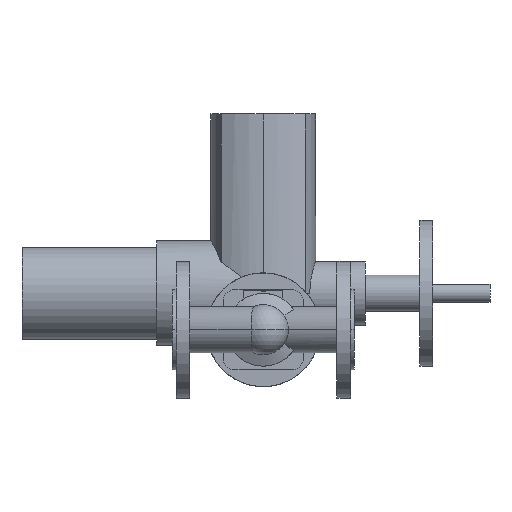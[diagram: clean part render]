
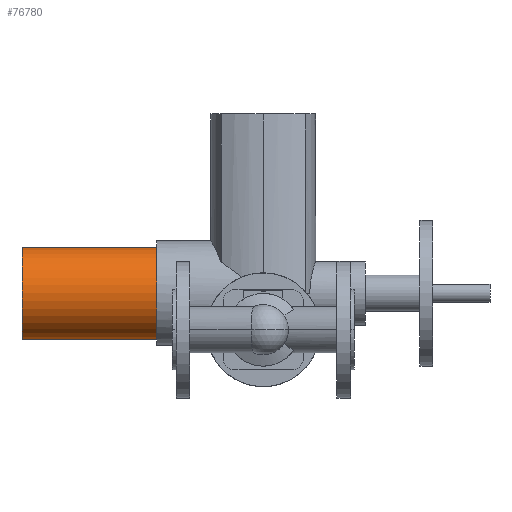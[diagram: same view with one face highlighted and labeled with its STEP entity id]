
A CAD part, front view. The second image highlights one B-rep face of the part: STEP entity #76780.
In plain terms, the highlighted cylindrical face has radius 50.5 mm (diameter 101 mm), a partial arc.
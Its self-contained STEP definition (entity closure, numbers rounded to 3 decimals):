
#61800=CARTESIAN_POINT('',(-91.,416.,40.));
#61810=DIRECTION('',(1.,0.,0.));
#61820=DIRECTION('',(0.,0.,-1.));
#61830=AXIS2_PLACEMENT_3D('',#61800,#61810,#61820);
#61840=CYLINDRICAL_SURFACE('',#61830,50.5);
#61850=CARTESIAN_POINT('',(-91.,416.,90.5));
#61860=DIRECTION('',(1.,0.,0.));
#61870=VECTOR('',#61860,1.);
#61880=LINE('',#61850,#61870);
#61890=CARTESIAN_POINT('',(-165.,416.,90.5));
#61900=VERTEX_POINT('',#61890);
#61910=CARTESIAN_POINT('',(-17.,416.,90.5));
#61920=VERTEX_POINT('',#61910);
#61930=EDGE_CURVE('',#61900,#61920,#61880,.T.);
#61950=CARTESIAN_POINT('',(-165.,416.,40.));
#61960=DIRECTION('',(-1.,0.,0.));
#61970=DIRECTION('',(0.,0.,-1.));
#61980=AXIS2_PLACEMENT_3D('',#61950,#61960,#61970);
#61990=CIRCLE('',#61980,50.5);
#62000=CARTESIAN_POINT('',(-165.,416.,-10.5));
#62010=VERTEX_POINT('',#62000);
#62040=CARTESIAN_POINT('',(-91.,416.,-10.5));
#62050=DIRECTION('',(1.,0.,0.));
#62060=VECTOR('',#62050,1.);
#62070=LINE('',#62040,#62060);
#62080=CARTESIAN_POINT('',(-17.,416.,-10.5));
#62090=VERTEX_POINT('',#62080);
#62100=EDGE_CURVE('',#62010,#62090,#62070,.T.);
#62120=CARTESIAN_POINT('',(-17.,416.,40.));
#62130=DIRECTION('',(-1.,0.,0.));
#62140=DIRECTION('',(0.,0.,-1.));
#62150=AXIS2_PLACEMENT_3D('',#62120,#62130,#62140);
#62160=CIRCLE('',#62150,50.5);
#74410=EDGE_CURVE('',#62090,#61920,#62160,.T.);
#75930=EDGE_CURVE('',#62010,#61900,#61990,.T.);
#76720=ORIENTED_EDGE('',*,*,#75930,.F.);
#76730=ORIENTED_EDGE('',*,*,#61930,.F.);
#76740=ORIENTED_EDGE('',*,*,#74410,.T.);
#76750=ORIENTED_EDGE('',*,*,#62100,.T.);
#76760=EDGE_LOOP('',(#76750,#76740,#76730,#76720));
#76770=FACE_OUTER_BOUND('',#76760,.T.);
#76780=ADVANCED_FACE('',(#76770),#61840,.T.);
